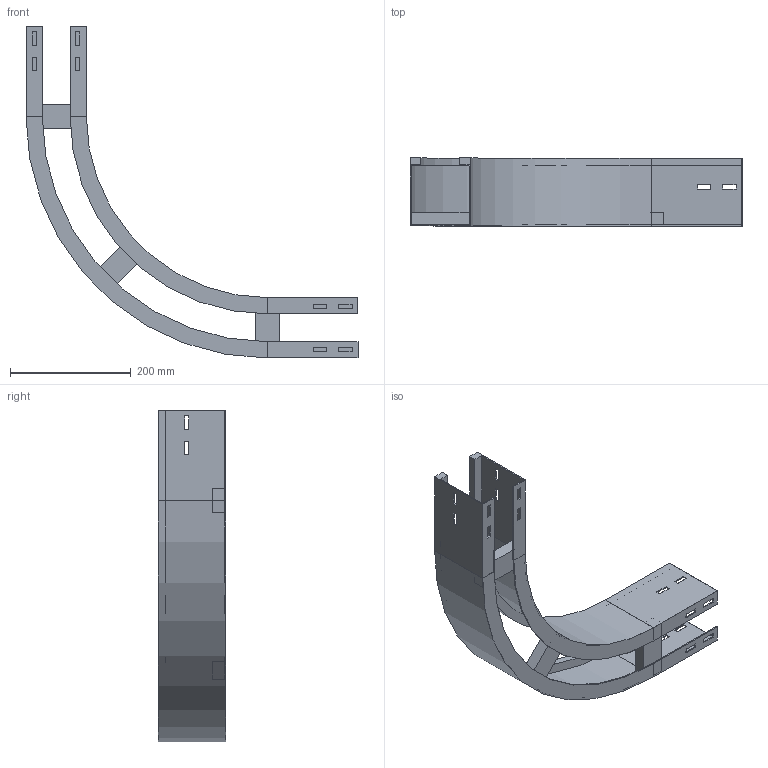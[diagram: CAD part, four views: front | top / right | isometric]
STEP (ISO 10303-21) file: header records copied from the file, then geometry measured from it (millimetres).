
FILE_DESCRIPTION (( 'STEP AP214' ), '1' );
FILE_NAME ('A2_10B3J100.step', '2025-02-21T15:24:28', ( '' ), ( '' ), 'SwSTEP 2.0', 'SolidWorks 2023', '' );
FILE_SCHEMA (( 'AUTOMOTIVE_DESIGN' ));
Length unit declared in the file: millimetre
Products named in the file (4): A2_10B3J100; TRAVERSINO_100; A2_LONGH.INTERNO 90°_H112.5_R300; A2_LONGH.ESTERNO 90°_H112.5_R300+100
Assembly tree (5 placements, depth 2):
  A2_10B3J100
    A2_LONGH.INTERNO 90°_H112.5_R300
    A2_LONGH.ESTERNO 90°_H112.5_R300+100
    TRAVERSINO_100  x3
Bounding box: 550 x 112.5 x 550 mm (x, y, z)
Volume: 1022045.3 mm3; surface area: 567066.4 mm2
Topology: 5 solids, 5 shells, 134 faces, 340 edges, 216 vertices
Faces by surface type: plane 126, cylinder 8
Entity records: 3821 total; most frequent: CARTESIAN_POINT 646, ORIENTED_EDGE 632, DIRECTION 592, EDGE_CURVE 316, VECTOR 300, LINE 300, VERTEX_POINT 200, EDGE_LOOP 154
